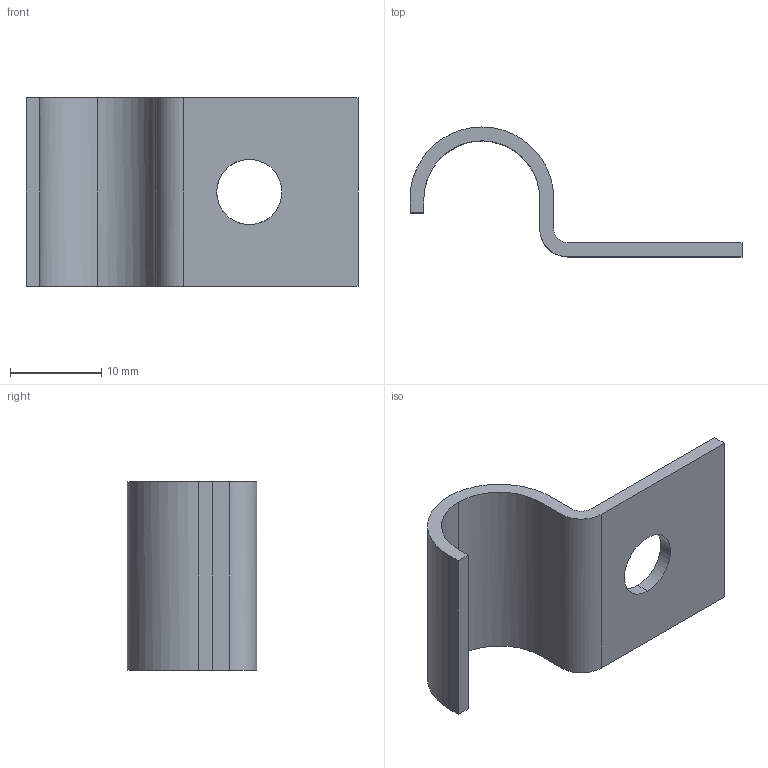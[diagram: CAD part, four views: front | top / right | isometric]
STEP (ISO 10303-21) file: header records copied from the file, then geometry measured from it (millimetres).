
FILE_DESCRIPTION(('TurboCAD Mac Pro'),'Build 980');
FILE_NAME('P2012.stp',' ',(''),(''),'ACIS Interop','IMSI','TurboCAD Mac Pro BY IMSI, INCORPORATED');
FILE_SCHEMA(('automotive_design'));
Length unit declared in the file: inch
Products named in the file (2): 1; 2
Bounding box: 36.4 x 14.23 x 20.64 mm (x, y, z)
Volume: 1509.2 mm3; surface area: 2228.7 mm2
Topology: 1 solids, 1 shells, 20 faces, 54 edges, 36 vertices
Faces by surface type: bspline 10, plane 10
Entity records: 1058 total; most frequent: CARTESIAN_POINT 274, ORIENTED_EDGE 108, DIRECTION 66, EDGE_CURVE 54, LINE 42, VECTOR 42, VERTEX_POINT 36, STYLED_ITEM 35
